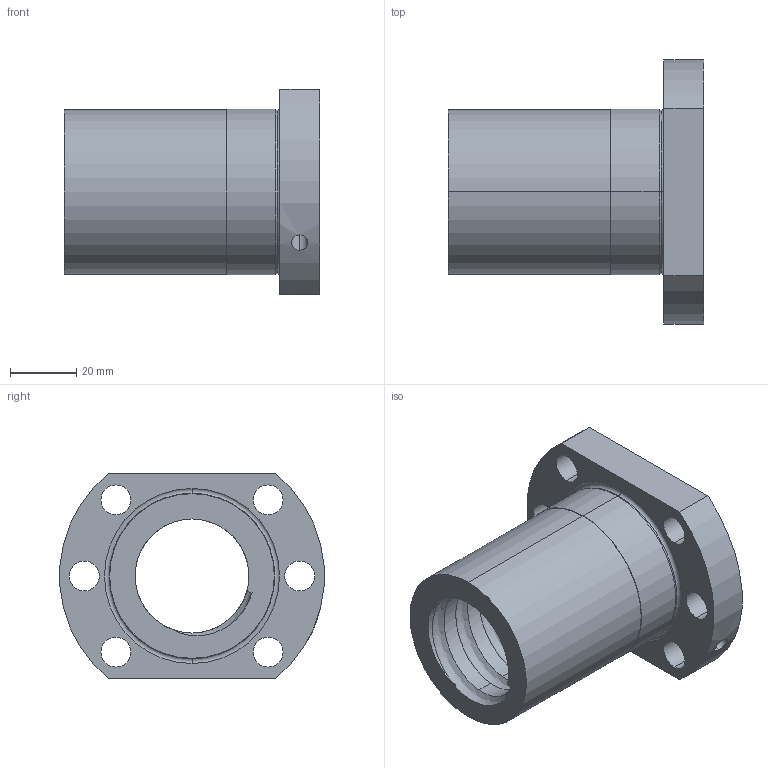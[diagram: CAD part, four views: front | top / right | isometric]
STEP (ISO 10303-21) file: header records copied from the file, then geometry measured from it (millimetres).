
FILE_DESCRIPTION (( 'STEP AP214' ), '1' );
FILE_NAME ('LLE3210-F.STEP', '2020-12-17T06:41:21', ( 'user' ), ( 'datathink' ), 'SwSTEP 2.0', 'SolidWorks 2013', '' );
FILE_SCHEMA (( 'AUTOMOTIVE_DESIGN' ));
Length unit declared in the file: millimetre
Products named in the file (1): LLE3210-F
Bounding box: 77 x 79.74 x 62 mm (x, y, z)
Volume: 97616.3 mm3; surface area: 31243.5 mm2
Topology: 1 solids, 1 shells, 49 faces, 134 edges, 88 vertices
Faces by surface type: cylinder 37, plane 7, torus 4, bspline 1
Entity records: 3184 total; most frequent: CARTESIAN_POINT 1925, ORIENTED_EDGE 268, DIRECTION 239, EDGE_CURVE 134, AXIS2_PLACEMENT_3D 98, VERTEX_POINT 88, EDGE_LOOP 66, ADVANCED_FACE 49
